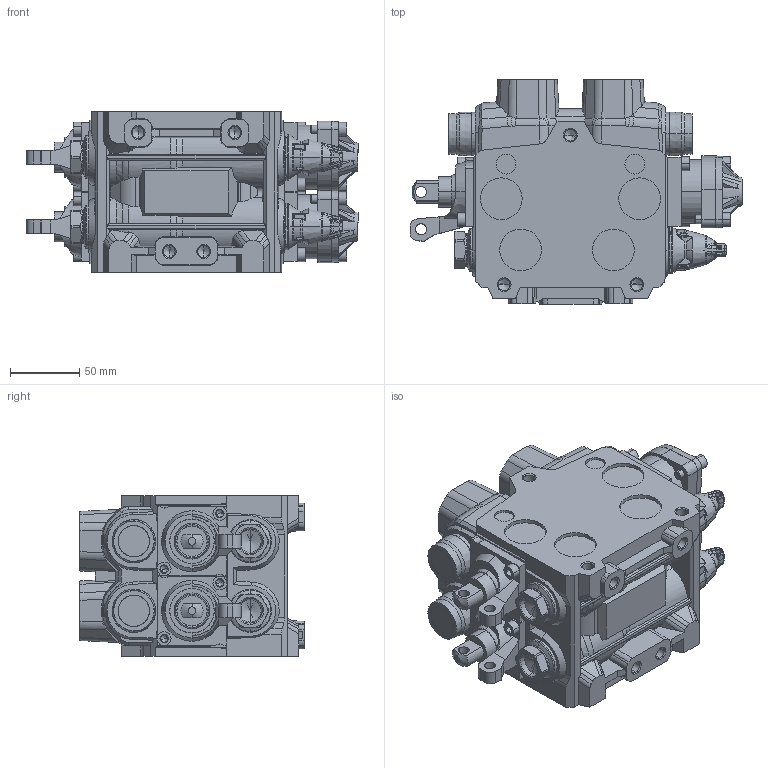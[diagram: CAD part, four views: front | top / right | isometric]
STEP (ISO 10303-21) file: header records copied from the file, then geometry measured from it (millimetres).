
FILE_DESCRIPTION (( 'STEP AP203' ), '1' );
FILE_NAME ('S-V3362B.STEP', '2018-05-22T12:13:30', ( '' ), ( '' ), 'SwSTEP 2.0', 'SolidWorks 2018', '' );
FILE_SCHEMA (( 'CONFIG_CONTROL_DESIGN' ));
Products named in the file (1): S-V3362B
Bounding box: 240 x 162 x 116.3 mm (x, y, z)
Surface area: 274292.5 mm2 (no closed solid volume)
Topology: 0 solids, 45 shells, 3527 faces, 8839 edges, 5298 vertices
Faces by surface type: plane 1132, bspline 922, cylinder 905, cone 412, torus 104, sphere 52
Entity records: 143399 total; most frequent: CARTESIAN_POINT 69768, ORIENTED_EDGE 17006, DIRECTION 12922, EDGE_CURVE 8655, VERTEX_POINT 5298, AXIS2_PLACEMENT_3D 4784, EDGE_LOOP 3701, ADVANCED_FACE 3527
